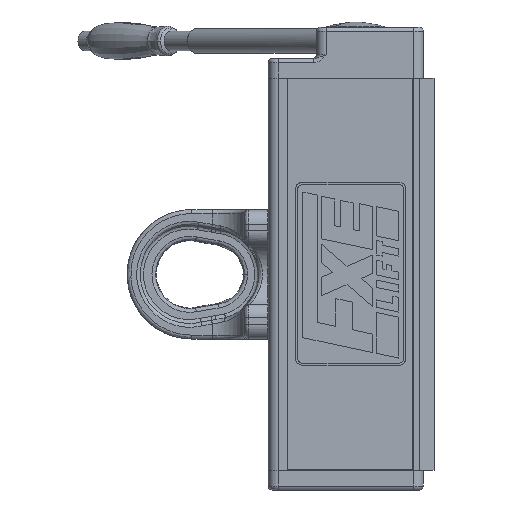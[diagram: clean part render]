
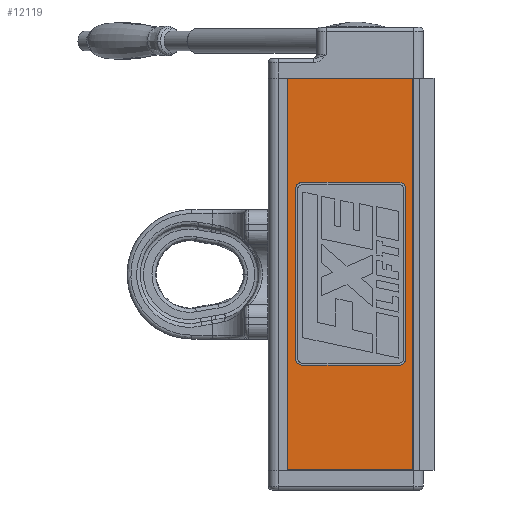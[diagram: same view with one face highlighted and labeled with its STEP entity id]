
A CAD part, left-side view. The second image highlights one B-rep face of the part: STEP entity #12119.
In plain terms, the highlighted planar face has unit normal (-1, 0, 0).
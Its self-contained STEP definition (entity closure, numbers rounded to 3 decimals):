
#19 = CARTESIAN_POINT ( 'NONE',  ( -113., -51.35, 86.87 ) ) ;
#246 = VECTOR ( 'NONE', #25678, 1000. ) ;
#310 = VECTOR ( 'NONE', #34414, 1000. ) ;
#409 = DIRECTION ( 'NONE',  ( 0., 1., 0. ) ) ;
#541 = CARTESIAN_POINT ( 'NONE',  ( -113., 57.969, -92.906 ) ) ;
#1237 = VECTOR ( 'NONE', #31980, 1000. ) ;
#1284 = CARTESIAN_POINT ( 'NONE',  ( -113., -43.837, 93.906 ) ) ;
#1377 = VERTEX_POINT ( 'NONE', #27354 ) ;
#1389 = ORIENTED_EDGE ( 'NONE', *, *, #7669, .T. ) ;
#1777 = FACE_BOUND ( 'NONE', #21364, .T. ) ;
#1780 = CARTESIAN_POINT ( 'NONE',  ( -113., 61.35, -89.74 ) ) ;
#1855 = CARTESIAN_POINT ( 'NONE',  ( -113., -47.967, 93.906 ) ) ;
#2703 = LINE ( 'NONE', #25767, #19471 ) ;
#3334 = CARTESIAN_POINT ( 'NONE',  ( -113., 61.35, 86.87 ) ) ;
#3437 = LINE ( 'NONE', #4504, #19177 ) ;
#3537 = PLANE ( 'NONE',  #25611 ) ;
#4393 = CARTESIAN_POINT ( 'NONE',  ( -113., -59.5, -199. ) ) ;
#4504 = CARTESIAN_POINT ( 'NONE',  ( -113., -59.5, -199. ) ) ;
#4792 = EDGE_CURVE ( 'NONE', #36030, #25241, #22624, .T. ) ;
#4961 = EDGE_CURVE ( 'NONE', #7552, #9774, #20071, .T. ) ;
#5024 = CARTESIAN_POINT ( 'NONE',  ( -113., -43.837, 93.906 ) ) ;
#5214 = ORIENTED_EDGE ( 'NONE', *, *, #20568, .T. ) ;
#5417 = ORIENTED_EDGE ( 'NONE', *, *, #22911, .T. ) ;
#6154 = CARTESIAN_POINT ( 'NONE',  ( -113., 61.35, 0.5 ) ) ;
#6785 = CARTESIAN_POINT ( 'NONE',  ( -113., -51.35, 0.5 ) ) ;
#7552 = VERTEX_POINT ( 'NONE', #21396 ) ;
#7651 = DIRECTION ( 'NONE',  ( 0., 0., 1. ) ) ;
#7669 = EDGE_CURVE ( 'NONE', #13429, #21789, #32772, .T. ) ;
#7718 = CARTESIAN_POINT ( 'NONE',  ( -113., 61.35, 86.87 ) ) ;
#7820 = EDGE_CURVE ( 'NONE', #39458, #13429, #17792, .T. ) ;
#8168 = CARTESIAN_POINT ( 'NONE',  ( -113., -51.35, 90.739 ) ) ;
#8798 = ORIENTED_EDGE ( 'NONE', *, *, #28443, .T. ) ;
#9242 = VERTEX_POINT ( 'NONE', #35020 ) ;
#9254 = CARTESIAN_POINT ( 'NONE',  ( -113., 5., -92.906 ) ) ;
#9774 = VERTEX_POINT ( 'NONE', #1284 ) ;
#9933 = CARTESIAN_POINT ( 'NONE',  ( -113., 69.5, -199. ) ) ;
#10889 = ORIENTED_EDGE ( 'NONE', *, *, #26278, .T. ) ;
#10997 = DIRECTION ( 'NONE',  ( 0., -1., 0. ) ) ;
#11019 = CARTESIAN_POINT ( 'NONE',  ( -113., 57.967, 93.906 ) ) ;
#11397 = ORIENTED_EDGE ( 'NONE', *, *, #4961, .T. ) ;
#11531 = B_SPLINE_CURVE_WITH_KNOTS ( 'NONE', 3,
 ( #5024, #1855, #8168, #30241 ),
 .UNSPECIFIED., .F., .F.,
 ( 4, 4 ),
 ( 3., 4. ),
 .UNSPECIFIED. ) ;
#12101 = DIRECTION ( 'NONE',  ( 0., -1., 0. ) ) ;
#12119 = ADVANCED_FACE ( 'NONE', ( #25967, #1777 ), #3537, .F. ) ;
#12721 = CARTESIAN_POINT ( 'NONE',  ( -113., -51.35, -85.87 ) ) ;
#12774 = CARTESIAN_POINT ( 'NONE',  ( -113., -47.97, -92.906 ) ) ;
#13173 = CARTESIAN_POINT ( 'NONE',  ( -113., 5., 0.5 ) ) ;
#13429 = VERTEX_POINT ( 'NONE', #29013 ) ;
#16320 = DIRECTION ( 'NONE',  ( 0., 1., 0. ) ) ;
#16974 = LINE ( 'NONE', #6785, #246 ) ;
#17057 = EDGE_LOOP ( 'NONE', ( #5214, #26496, #8798, #26073 ) ) ;
#17630 = CARTESIAN_POINT ( 'NONE',  ( -113., 61.35, -85.87 ) ) ;
#17792 = B_SPLINE_CURVE_WITH_KNOTS ( 'NONE', 3,
 ( #28351, #31659, #12774, #34793 ),
 .UNSPECIFIED., .F., .F.,
 ( 4, 4 ),
 ( 5., 6. ),
 .UNSPECIFIED. ) ;
#18955 = EDGE_CURVE ( 'NONE', #36765, #9242, #3437, .T. ) ;
#19093 = VECTOR ( 'NONE', #10997, 1000. ) ;
#19177 = VECTOR ( 'NONE', #7651, 1000. ) ;
#19471 = VECTOR ( 'NONE', #409, 1000. ) ;
#19786 = CARTESIAN_POINT ( 'NONE',  ( -113., 53.837, -92.906 ) ) ;
#20071 = LINE ( 'NONE', #29517, #19093 ) ;
#20133 = EDGE_CURVE ( 'NONE', #21789, #36030, #37815, .T. ) ;
#20235 = B_SPLINE_CURVE_WITH_KNOTS ( 'NONE', 3,
 ( #7718, #26600, #11019, #33026 ),
 .UNSPECIFIED., .F., .F.,
 ( 4, 4 ),
 ( 1., 2. ),
 .UNSPECIFIED. ) ;
#20568 = EDGE_CURVE ( 'NONE', #9242, #38045, #2703, .T. ) ;
#21364 = EDGE_LOOP ( 'NONE', ( #24773, #26266, #23651, #11397, #10889, #5417, #26468, #1389 ) ) ;
#21396 = CARTESIAN_POINT ( 'NONE',  ( -113., 53.837, 93.906 ) ) ;
#21789 = VERTEX_POINT ( 'NONE', #19786 ) ;
#22624 = LINE ( 'NONE', #6154, #40245 ) ;
#22899 = EDGE_CURVE ( 'NONE', #38045, #1377, #25411, .T. ) ;
#22911 = EDGE_CURVE ( 'NONE', #38554, #39458, #16974, .T. ) ;
#23651 = ORIENTED_EDGE ( 'NONE', *, *, #39781, .T. ) ;
#24773 = ORIENTED_EDGE ( 'NONE', *, *, #20133, .T. ) ;
#25241 = VERTEX_POINT ( 'NONE', #3334 ) ;
#25411 = LINE ( 'NONE', #9933, #1237 ) ;
#25611 = AXIS2_PLACEMENT_3D ( 'NONE', #13173, #35174, #16320 ) ;
#25678 = DIRECTION ( 'NONE',  ( 0., 0., -1. ) ) ;
#25767 = CARTESIAN_POINT ( 'NONE',  ( -113., -59.5, 200. ) ) ;
#25967 = FACE_OUTER_BOUND ( 'NONE', #17057, .T. ) ;
#26071 = CARTESIAN_POINT ( 'NONE',  ( -113., 61.35, -85.87 ) ) ;
#26073 = ORIENTED_EDGE ( 'NONE', *, *, #18955, .T. ) ;
#26266 = ORIENTED_EDGE ( 'NONE', *, *, #4792, .T. ) ;
#26278 = EDGE_CURVE ( 'NONE', #9774, #38554, #11531, .T. ) ;
#26468 = ORIENTED_EDGE ( 'NONE', *, *, #7820, .T. ) ;
#26496 = ORIENTED_EDGE ( 'NONE', *, *, #22899, .T. ) ;
#26600 = CARTESIAN_POINT ( 'NONE',  ( -113., 61.35, 90.74 ) ) ;
#26938 = VECTOR ( 'NONE', #12101, 1000. ) ;
#27354 = CARTESIAN_POINT ( 'NONE',  ( -113., 69.5, -199. ) ) ;
#28176 = DIRECTION ( 'NONE',  ( 0., 0., 1. ) ) ;
#28351 = CARTESIAN_POINT ( 'NONE',  ( -113., -51.35, -85.87 ) ) ;
#28443 = EDGE_CURVE ( 'NONE', #1377, #36765, #35310, .T. ) ;
#29013 = CARTESIAN_POINT ( 'NONE',  ( -113., -43.837, -92.906 ) ) ;
#29517 = CARTESIAN_POINT ( 'NONE',  ( -113., 5., 93.906 ) ) ;
#30241 = CARTESIAN_POINT ( 'NONE',  ( -113., -51.35, 86.87 ) ) ;
#31659 = CARTESIAN_POINT ( 'NONE',  ( -113., -51.35, -89.738 ) ) ;
#31980 = DIRECTION ( 'NONE',  ( 0., 0., -1. ) ) ;
#32772 = LINE ( 'NONE', #9254, #310 ) ;
#33026 = CARTESIAN_POINT ( 'NONE',  ( -113., 53.837, 93.906 ) ) ;
#34414 = DIRECTION ( 'NONE',  ( 0., 1., 0. ) ) ;
#34793 = CARTESIAN_POINT ( 'NONE',  ( -113., -43.837, -92.906 ) ) ;
#35020 = CARTESIAN_POINT ( 'NONE',  ( -113., -59.5, 200. ) ) ;
#35174 = DIRECTION ( 'NONE',  ( 1., 0., 0. ) ) ;
#35310 = LINE ( 'NONE', #4393, #26938 ) ;
#36030 = VERTEX_POINT ( 'NONE', #26071 ) ;
#36437 = CARTESIAN_POINT ( 'NONE',  ( -113., 53.837, -92.906 ) ) ;
#36765 = VERTEX_POINT ( 'NONE', #38798 ) ;
#37243 = CARTESIAN_POINT ( 'NONE',  ( -113., 69.5, 200. ) ) ;
#37815 = B_SPLINE_CURVE_WITH_KNOTS ( 'NONE', 3,
 ( #36437, #541, #1780, #17630 ),
 .UNSPECIFIED., .F., .F.,
 ( 4, 4 ),
 ( 7., 8. ),
 .UNSPECIFIED. ) ;
#38045 = VERTEX_POINT ( 'NONE', #37243 ) ;
#38554 = VERTEX_POINT ( 'NONE', #19 ) ;
#38798 = CARTESIAN_POINT ( 'NONE',  ( -113., -59.5, -199. ) ) ;
#39458 = VERTEX_POINT ( 'NONE', #12721 ) ;
#39781 = EDGE_CURVE ( 'NONE', #25241, #7552, #20235, .T. ) ;
#40245 = VECTOR ( 'NONE', #28176, 1000. ) ;
